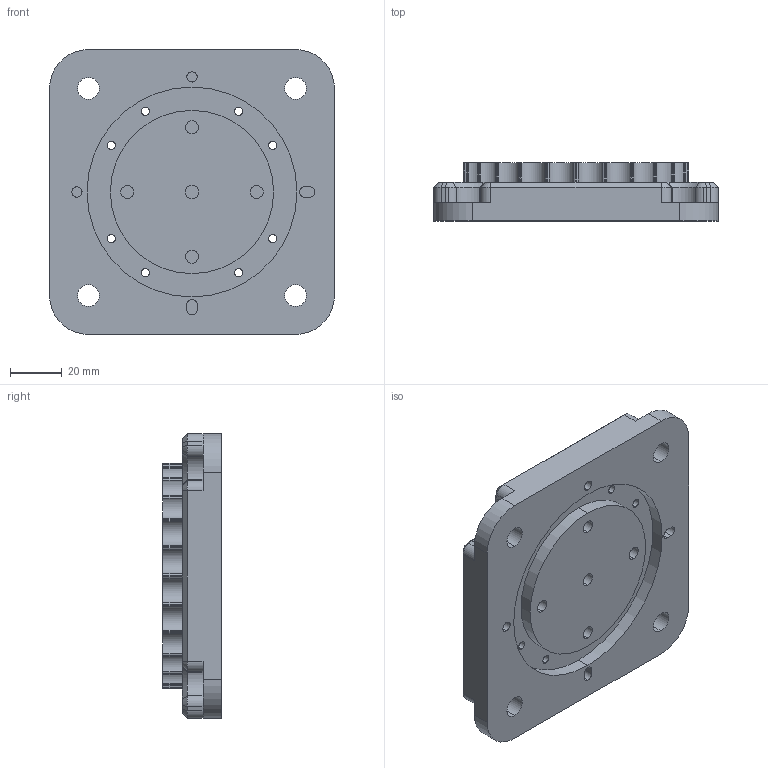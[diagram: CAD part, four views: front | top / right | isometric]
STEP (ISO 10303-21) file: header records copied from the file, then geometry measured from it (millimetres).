
FILE_DESCRIPTION (( 'STEP AP214' ), '1' );
FILE_NAME ('320-102985-D-BasePlateOS01_HighFOV.STEP', '2021-01-28T21:13:58', ( '' ), ( '' ), 'SwSTEP 2.0', 'SolidWorks 2020', '' );
FILE_SCHEMA (( 'AUTOMOTIVE_DESIGN' ));
Length unit declared in the file: millimetre
Products named in the file (1): 320-102985-D-BasePlateOS01_HighFOV
Bounding box: 110 x 22.5 x 110 mm (x, y, z)
Volume: 189919.2 mm3; surface area: 38091 mm2
Topology: 1 solids, 1 shells, 286 faces, 758 edges, 494 vertices
Faces by surface type: cylinder 208, plane 54, cone 24
Entity records: 9264 total; most frequent: DIRECTION 1774, CARTESIAN_POINT 1539, ORIENTED_EDGE 1516, EDGE_CURVE 758, AXIS2_PLACEMENT_3D 729, VERTEX_POINT 494, CIRCLE 442, EDGE_LOOP 330
